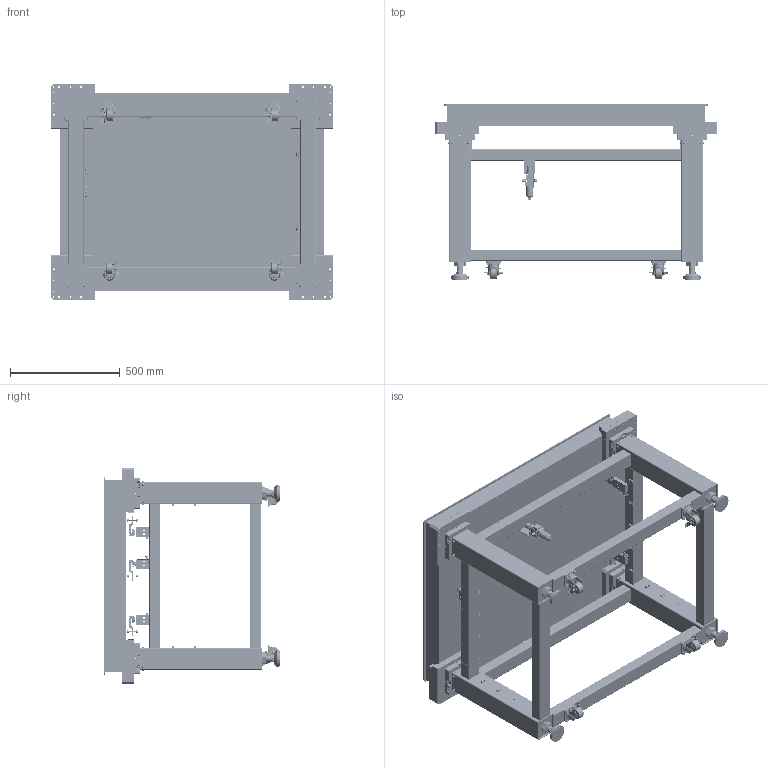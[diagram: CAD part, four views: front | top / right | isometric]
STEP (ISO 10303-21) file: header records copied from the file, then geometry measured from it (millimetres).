
FILE_DESCRIPTION (( 'STEP AP203' ), '1' );
FILE_NAME ('NAP12-09(AP203).STEP', '2022-03-09T01:04:11', ( '' ), ( '' ), 'SwSTEP 2.0', 'SolidWorks 2021', '' );
FILE_SCHEMA (( 'CONFIG_CONTROL_DESIGN' ));
Products named in the file (1): NAP12-09(AP203)
Bounding box: 1289.3 x 800 x 984.5 mm (x, y, z)
Surface area: 9125141.9 mm2 (no closed solid volume)
Topology: 0 solids, 389 shells, 5291 faces, 17595 edges, 12476 vertices
Faces by surface type: cylinder 3931, plane 1142, sphere 66, bspline 60, cone 58, torus 34
Entity records: 209046 total; most frequent: CARTESIAN_POINT 42338, DIRECTION 37285, ORIENTED_EDGE 30322, EDGE_CURVE 17591, AXIS2_PLACEMENT_3D 14891, VERTEX_POINT 12476, CIRCLE 9659, EDGE_LOOP 9102
